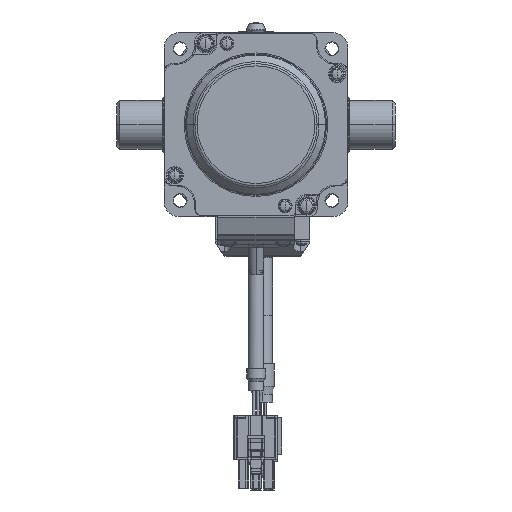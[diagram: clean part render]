
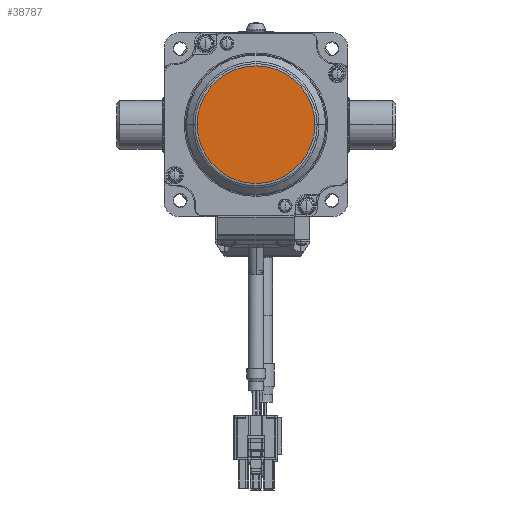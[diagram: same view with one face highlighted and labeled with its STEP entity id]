
A CAD part, front view. The second image highlights one B-rep face of the part: STEP entity #38787.
In plain terms, the highlighted planar face has unit normal (0, -1, 0) as drawn and (-1, 0, 0) by its records, which use the part's own axes.
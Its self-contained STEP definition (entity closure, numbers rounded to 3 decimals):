
#31529=CARTESIAN_POINT('',(-67.5,0.,0.));
#31530=DIRECTION('',(-1.,0.,0.));
#31531=DIRECTION('',(0.,0.,-1.));
#31532=AXIS2_PLACEMENT_3D('',#31529,#31530,#31531);
#31534=CARTESIAN_POINT('',(-67.5,0.,0.));
#31535=DIRECTION('',(-1.,0.,0.));
#31536=DIRECTION('',(0.,0.,1.));
#31537=AXIS2_PLACEMENT_3D('',#31534,#31535,#31536);
#32967=CARTESIAN_POINT('',(-67.5,0.,-19.191));
#32969=VERTEX_POINT('',#32967);
#32973=CARTESIAN_POINT('',(-67.5,0.,19.191));
#32974=VERTEX_POINT('',#32973);
#38777=CARTESIAN_POINT('',(-67.5,-17.,27.));
#38778=DIRECTION('',(1.,0.,0.));
#38779=DIRECTION('',(0.,0.,-1.));
#38780=AXIS2_PLACEMENT_3D('',#38777,#38778,#38779);
#38781=PLANE('',#38780);
#38782=ORIENTED_EDGE('',*,*,#38767,.F.);
#38784=ORIENTED_EDGE('',*,*,#38783,.F.);
#38785=EDGE_LOOP('',(#38782,#38784));
#38786=FACE_OUTER_BOUND('',#38785,.F.);
#38787=ADVANCED_FACE('',(#38786),#38781,.F.);
#31533=CIRCLE('',#31532,19.191);
#31538=CIRCLE('',#31537,19.191);
#38767=EDGE_CURVE('',#32969,#32974,#31533,.T.);
#38783=EDGE_CURVE('',#32974,#32969,#31538,.T.);
